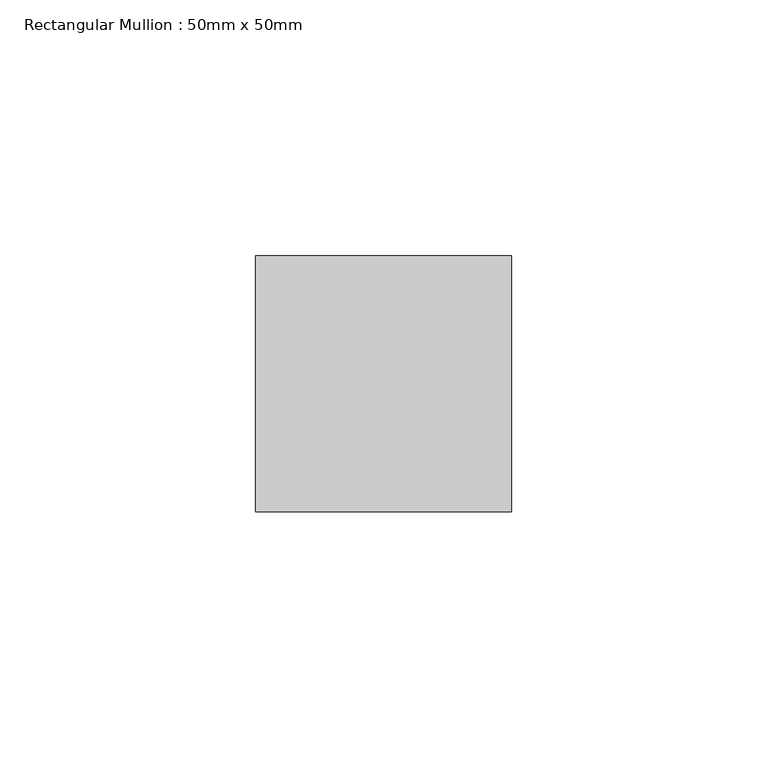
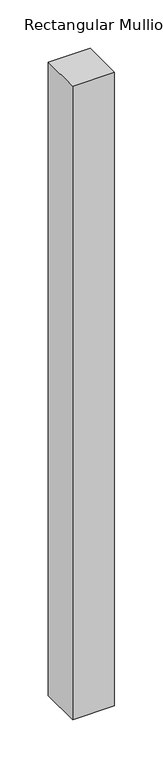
"""IFC4 building model written with IfcOpenShell, lengths in millimetres: member geometry, Rectangular Mullion : 50mm x 50mm."""

from ifc_helpers import new_model, si_unit, frame, origin, place, context, project, spatial, polyline, outline, extrude, source, transform, mapped, element, save


def rectangular_mullion_50mm_x_50mm_6507d5cd(model_context):
    return source(origin(), model_context, "Body", "SweptSolid", [
        extrude(outline(polyline([(25.0, 25.0), (25.0, -25.0), (-25.0, -25.0), (-25.0, 25.0), (25.0, 25.0)])), frame((0.0, 0.0, -799.8272404), z_axis=(0.0, 0.0, 1.0), x_axis=(1.0, 0.0, 0.0)), (0.0, 0.0, 1.0), 799.8272404),
    ])


if __name__ == "__main__":
    model = new_model("IFC4")
    model_context = context("Model", 3, world=origin())
    ifc_project = project(units=[si_unit("LENGTHUNIT", "METRE", prefix="MILLI")], contexts=[model_context])
    site = spatial("IfcSite", under=ifc_project)
    building = spatial("IfcBuilding", under=site)
    placement = place(None, origin())
    rectangular_mullion_50mm_x_50mm_shape = rectangular_mullion_50mm_x_50mm_6507d5cd(model_context)
    element("IfcMember", 1, ObjectType="Rectangular Mullion : 50mm x 50mm", at=placement, inside=building, context=model_context, shape_type="MappedRepresentation", body=[
        mapped(rectangular_mullion_50mm_x_50mm_shape, transform((0.0, 0.0, 0.0), x_axis=(1.0, 0.0, 0.0), y_axis=(0.0, 1.0, 0.0), z_axis=(0.0, 0.0, 1.0))),
    ])
    save(model, "model.ifc")
